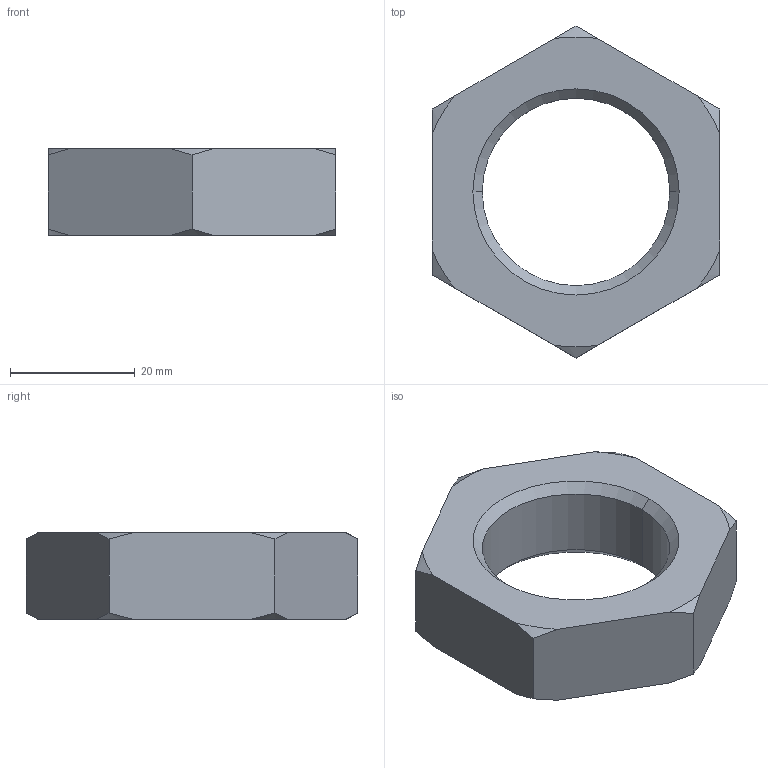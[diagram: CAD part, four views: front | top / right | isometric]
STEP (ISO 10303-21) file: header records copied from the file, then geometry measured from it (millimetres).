
FILE_DESCRIPTION (( 'STEP AP203' ), '1' );
FILE_NAME ('P0306.300-150-A4.step', '2018-12-15T15:02:21', ( '' ), ( '' ), 'SwSTEP 2.0', 'SolidWorks 2017', '' );
FILE_SCHEMA (( 'CONFIG_CONTROL_DESIGN' ));
Length unit declared in the file: millimetre
Products named in the file (1): P0306.300-150-A4
Bounding box: 46 x 53.12 x 13.9 mm (x, y, z)
Volume: 15404.7 mm3; surface area: 5581.2 mm2
Topology: 1 solids, 1 shells, 26 faces, 68 edges, 44 vertices
Faces by surface type: cone 16, plane 8, cylinder 2
Entity records: 921 total; most frequent: CARTESIAN_POINT 227, ORIENTED_EDGE 136, DIRECTION 118, EDGE_CURVE 68, AXIS2_PLACEMENT_3D 47, VERTEX_POINT 44, EDGE_LOOP 28, ADVANCED_FACE 26
